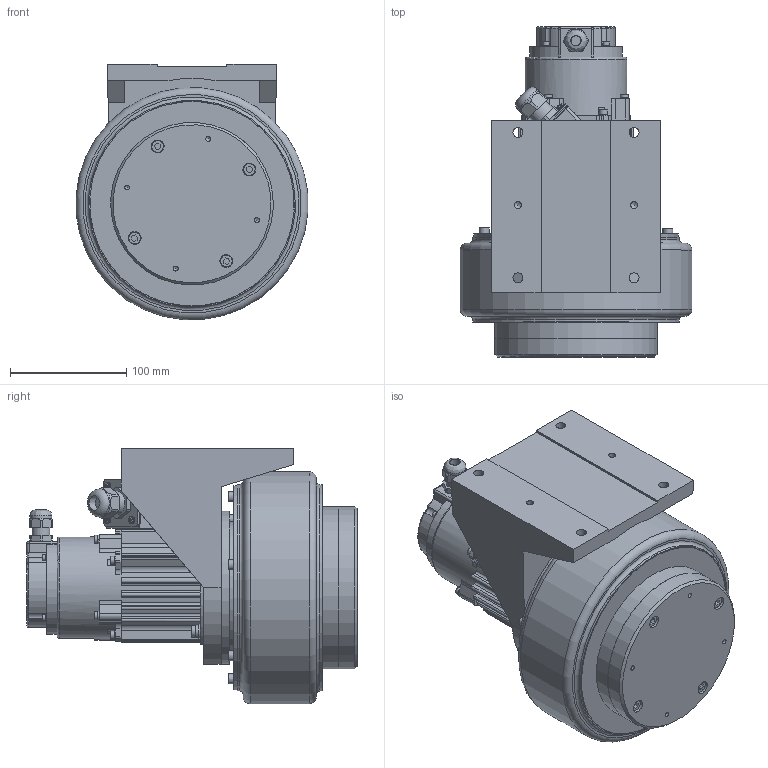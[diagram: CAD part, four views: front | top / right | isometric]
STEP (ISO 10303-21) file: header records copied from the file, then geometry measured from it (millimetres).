
FILE_DESCRIPTION(('STEP AP203'),'1');
FILE_NAME('030B-P.stp','2021-04-08T04:17:17',(' '),(' '),'Spatial InterOp 3D',' ',' ');
FILE_SCHEMA(('CONFIG_CONTROL_DESIGN'));
Length unit declared in the file: millimetre
Products named in the file (1): AWRⅡ030B-P
Bounding box: 199.49 x 284 x 219.74 mm (x, y, z)
Volume: 4450826.6 mm3; surface area: 345133.5 mm2
Topology: 1 solids, 37 shells, 1113 faces, 2764 edges, 1815 vertices
Faces by surface type: plane 660, cylinder 345, cone 75, torus 18, sphere 8, bspline 7
Full cylindrical faces by diameter (mm): 2.5 x12, 3 x11, 3.3 x9, 3.4 x4, 3.5 x13, 4 x8, 4.2 x4, 4.5 x8, 5 x8, 5.5 x4, 5.6 x7, 6 x6, 6.4 x4, 6.6 x4, 7 x8, 8 x4, 8.5 x11, 10 x8, 10.4 x4, 11 x4, 12 x4, 12.5 x1, 14.95 x1, 15.2 x1, 19 x1, 20.4 x2, 21 x2, 24 x1, 28 x1, 36 x1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
Entity records: 32044 total; most frequent: CARTESIAN_POINT 6682, DIRECTION 5426, ORIENTED_EDGE 4776, EDGE_CURVE 2388, AXIS2_PLACEMENT_3D 2075, VERTEX_POINT 1696, EDGE_LOOP 1467, FACE_OUTER_BOUND 1285
